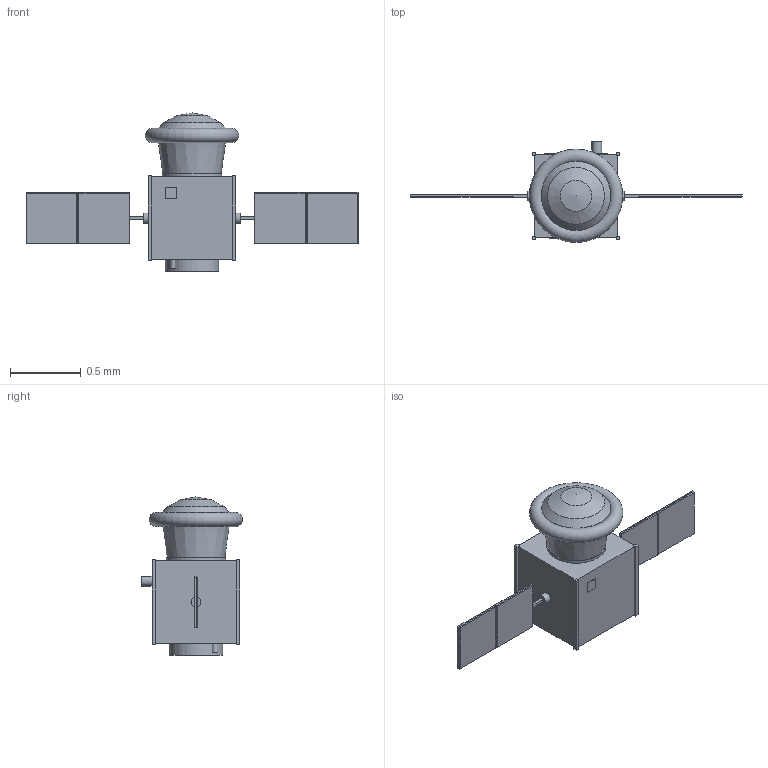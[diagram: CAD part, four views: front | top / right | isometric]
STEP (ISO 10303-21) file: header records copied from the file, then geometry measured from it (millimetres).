
FILE_DESCRIPTION(('Open CASCADE Model'),'2;1');
FILE_NAME('Open CASCADE Shape Model','2026-10-04T13:15:37',('Author'),( 'Open CASCADE'),'Open CASCADE STEP processor 7.9','Open CASCADE 7.9' ,'Unknown');
FILE_SCHEMA(('AUTOMOTIVE_DESIGN { 1 0 10303 214 1 1 1 1 }'));
Length unit declared in the file: millimetre
Products named in the file (44): SP-ORG; capsule_backshell; nose; heat_shield_packed; sample_drawer; sample_cassette_1; sample_cassette_2; optical_window; capsule_avionics_and_hold_battery; parachute_canister; recovery_beacon; separation_interface; service_module_structure; corner_rail_-X-Y; corner_rail_-X+Y; corner_rail_+X-Y; corner_rail_+X+Y; radiator_+Y_face; experiment_instruments_microscope_pumps_reservoirs; propellant_tank_LMP-103S; battery; on-board_computer_and_radios; reaction_wheel_1; reaction_wheel_2; reaction_wheel_3; magnetorquer_1; magnetorquer_2; star_tracker; S-band_antenna; 22_N_thruster_1; 22_N_thruster_2; launch_separation_ring; array_drive_-X; yoke_-X; solar_panel_-X1; panel_frame_-X1; solar_panel_-X2; panel_frame_-X2; array_drive_+X; yoke_+X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
Assembly tree (43 placements, depth 2):
  SP-ORG
    capsule_backshell
    nose
    heat_shield_packed
    sample_drawer
    sample_cassette_1
    sample_cassette_2
    optical_window
    capsule_avionics_and_hold_battery
    parachute_canister
    recovery_beacon
    separation_interface
    service_module_structure
    corner_rail_-X-Y
    corner_rail_-X+Y
    corner_rail_+X-Y
    corner_rail_+X+Y
    radiator_+Y_face
    experiment_instruments_microscope_pumps_reservoirs
    propellant_tank_LMP-103S
    battery
    on-board_computer_and_radios
    reaction_wheel_1
    reaction_wheel_2
    reaction_wheel_3
    magnetorquer_1
    magnetorquer_2
    star_tracker
    S-band_antenna
    22_N_thruster_1
    22_N_thruster_2
    launch_separation_ring
    array_drive_-X
    yoke_-X
    solar_panel_-X1
    panel_frame_-X1
    solar_panel_-X2
    panel_frame_-X2
    array_drive_+X
    yoke_+X
    solar_panel_+X1
    panel_frame_+X1
    solar_panel_+X2
    panel_frame_+X2
Bounding box: 2.35 x 0.72 x 1.12 mm (x, y, z)
Volume: 0.3 mm3; surface area: 8.7 mm2
Topology: 43 solids, 43 shells, 203 faces, 362 edges, 240 vertices
Faces by surface type: plane 181, cylinder 16, cone 4, torus 1, sphere 1
Full cylindrical faces by diameter (mm): 0.024 x2, 0.04 x1, 0.045 x2, 0.07 x3, 0.09 x3, 0.14 x1, 0.341 x1, 0.381 x1, 0.423 x1, 0.491 x1
Entity records: 10543 total; most frequent: DIRECTION 1606, CARTESIAN_POINT 1560, LINE 1003, VECTOR 1003, ORIENTED_EDGE 716, PCURVE 716, DEFINITIONAL_REPRESENTATION 716, EDGE_CURVE 358
